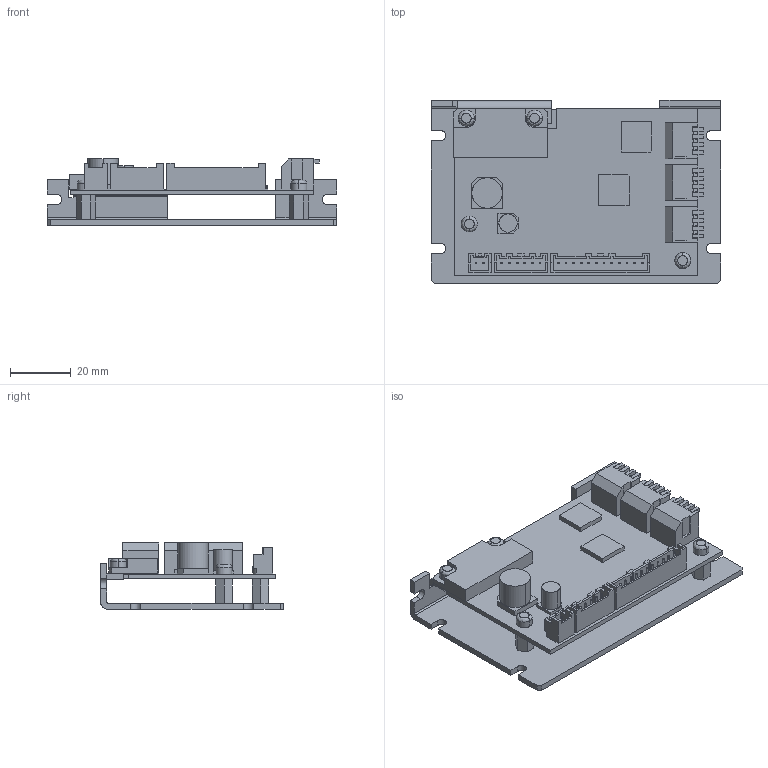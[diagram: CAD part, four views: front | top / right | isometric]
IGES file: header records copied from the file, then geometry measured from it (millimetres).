
Start section: SolidWorks IGES file using analytic representation for surfaces
Global section: file name: C:\Documents and Settings\6263.SKCJ\デスクトップ\NEW UB\iges対策用\iges NEW UB　.IGS; native system: SolidWorks 2009; preprocessor: SolidWorks 2009; author: 6263; date: 110622.142007; units: millimetre
Bounding box: 95 x 60 x 21.9 mm (x, y, z)
Surface area: 29875.8 mm2 (no closed solid volume)
Topology: 0 solids, 0 shells, 490 faces, 3476 edges, 3476 vertices
Faces by surface type: bspline 417, revolution 73
